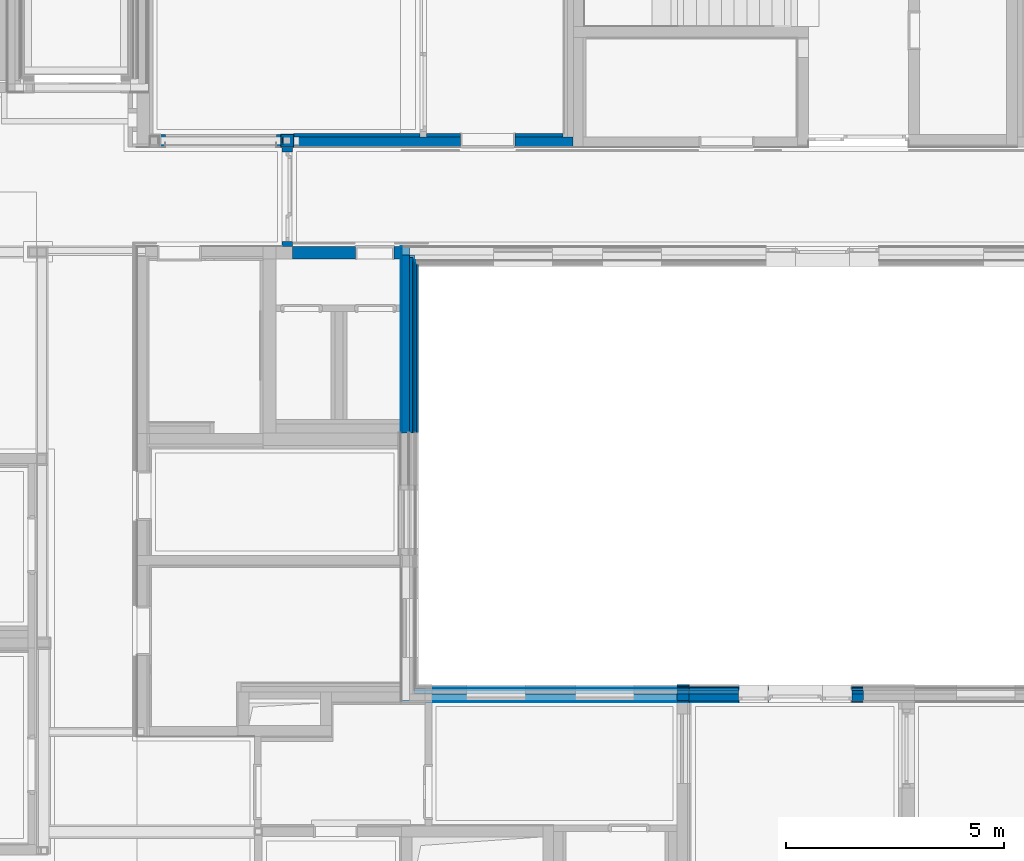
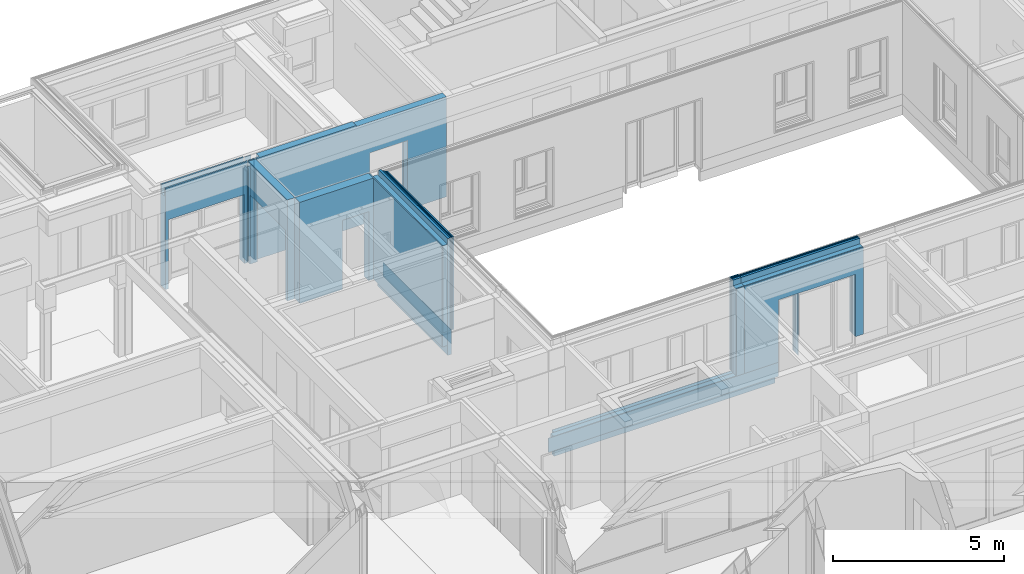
# One storey, part 32 of 207: 41 walls, 23 openings.
"""IFC4 building model written with IfcOpenShell, lengths in metres."""

import ifcopenshell
import ifcopenshell.guid

model = None  # the IFC model being written
_history = None  # IfcOwnerHistory: only IFC2X3 demands one
_inside = {}  # id of a spatial element -> (the spatial element, [elements in it])
_under = {}  # id of a project, library or spatial element -> (it, [spatial elements below it])
_declared = {}  # id of a project -> (the project, [libraries it declares])
_typed = {}  # id of a type object -> (the type object, [elements of that type])
_made_of = {}  # id of a material, layer set ... -> (it, [elements and type objects made of it])


def new_model(schema):
    """Start an empty IFC model of exactly this schema.

    Asked for "IFC4X3", IfcOpenShell would pick the latest addendum, in which some entities
    have other attributes; the version numbers below select the first issue.
    IFC2X3 requires an IfcOwnerHistory on every rooted entity: one is made here for all.
    """
    global model, _history
    if schema == "IFC4X3":
        model = ifcopenshell.file(schema_version=(4, 3, 0, 0))
    else:
        model = ifcopenshell.file(schema=schema)
    _inside.clear()
    _under.clear()
    _declared.clear()
    _typed.clear()
    _made_of.clear()
    _history = None
    if model.schema == "IFC2X3":
        org = make("IfcOrganization", Name="unknown")
        user = make(
            "IfcPersonAndOrganization",
            ThePerson=make("IfcPerson", FamilyName="unknown"),
            TheOrganization=org,
        )
        app = make(
            "IfcApplication",
            ApplicationDeveloper=org,
            Version="unknown",
            ApplicationFullName="unknown",
            ApplicationIdentifier="unknown",
        )
        _history = make(
            "IfcOwnerHistory",
            OwningUser=user,
            OwningApplication=app,
            ChangeAction="ADDED",
            CreationDate=0,
        )
    return model


def make(cls, **values):
    """One entity of the class cls with the attributes given. An attribute that is None is left unset."""
    return model.create_entity(
        cls, **{name: value for name, value in values.items() if value is not None}
    )


def entity(cls, *values):
    """Any entity or typed value of the class cls, its attributes in the order of the schema. None: left unset."""
    e = model.create_entity(cls)
    for i, value in enumerate(values):
        if value is not None:
            e[i] = value
    return e


def rooted(cls, **values):
    """An entity with a GlobalId (a new one), such as an element, a storey or a relation."""
    return make(cls, GlobalId=ifcopenshell.guid.new(), OwnerHistory=_history, **values)


def si_unit(unit_type, name, prefix=None):
    """IfcSIUnit, for example si_unit("LENGTHUNIT", "METRE", prefix="MILLI")."""
    return make("IfcSIUnit", UnitType=unit_type, Prefix=prefix, Name=name)


def converted_unit(unit_type, name, factor, base, dimensions=None, offset=None):
    """IfcConversionBasedUnit, such as the inch: factor (a typed value) times the base unit."""
    return make(
        "IfcConversionBasedUnit"
        if offset is None
        else "IfcConversionBasedUnitWithOffset",
        ConversionOffset=offset,
        Dimensions=None
        if dimensions is None
        else entity("IfcDimensionalExponents", *dimensions),
        UnitType=unit_type,
        Name=name,
        ConversionFactor=make(
            "IfcMeasureWithUnit", ValueComponent=factor, UnitComponent=base
        ),
    )


def derived_unit(unit_type, elements):
    """IfcDerivedUnit: a product of units, each with its exponent."""
    return make(
        "IfcDerivedUnit",
        Elements=[
            make("IfcDerivedUnitElement", Unit=unit, Exponent=power)
            for unit, power in elements
        ],
        UnitType=unit_type,
    )


def assignment(units):
    """IfcUnitAssignment: the units of a project."""
    return None if units is None else make("IfcUnitAssignment", Units=units)


def point(xyz):
    """IfcCartesianPoint."""
    return None if xyz is None else make("IfcCartesianPoint", Coordinates=xyz)


def direction(xyz):
    """IfcDirection."""
    return None if xyz is None else make("IfcDirection", DirectionRatios=xyz)


def frame(location, z_axis=None, x_axis=None):
    """IfcAxis2Placement3D, a coordinate frame: its origin and axes. An axis left out is left unset."""
    return make(
        "IfcAxis2Placement3D",
        Location=point(location),
        Axis=direction(z_axis),
        RefDirection=direction(x_axis),
    )


def frame_2d(location, x_axis=None):
    """IfcAxis2Placement2D, a coordinate frame in the plane: its origin and x axis."""
    return make(
        "IfcAxis2Placement2D", Location=point(location), RefDirection=direction(x_axis)
    )


def origin():
    """The frame at (0, 0, 0) with its axes left unset."""
    return frame((0.0, 0.0, 0.0))


def origin_with_axes():
    """The frame at (0, 0, 0) with the z axis (0, 0, 1) and the x axis (1, 0, 0) written out."""
    return frame((0.0, 0.0, 0.0), z_axis=(0.0, 0.0, 1.0), x_axis=(1.0, 0.0, 0.0))


def place(relative_to, where):
    """IfcLocalPlacement: puts the frame where relative to a parent placement (None: the world)."""
    return make(
        "IfcLocalPlacement", PlacementRelTo=relative_to, RelativePlacement=where
    )


def context(
    kind, dimensions, precision=None, world=None, true_north=None, identifier=None
):
    """IfcGeometricRepresentationContext, for example the 3D "Model" context."""
    return make(
        "IfcGeometricRepresentationContext",
        ContextIdentifier=identifier,
        ContextType=kind,
        CoordinateSpaceDimension=dimensions,
        Precision=precision,
        WorldCoordinateSystem=world,
        TrueNorth=true_north,
    )


def subcontext(parent, identifier, kind, view, scale=None):
    """IfcGeometricRepresentationSubContext, for example "Body" below "Model"."""
    return make(
        "IfcGeometricRepresentationSubContext",
        ContextIdentifier=identifier,
        ContextType=kind,
        ParentContext=parent,
        TargetScale=scale,
        TargetView=view,
    )


def project(units=None, contexts=None):
    """IfcProject with its units and contexts."""
    return rooted(
        "IfcProject",
        Name="project",
        RepresentationContexts=contexts,
        UnitsInContext=assignment(units),
    )


def spatial(cls, under=None, at=None, **own):
    """A site, building, storey or space (cls), placed at a placement, below another one or the project."""
    s = rooted(cls, ObjectPlacement=at, **own)
    if under is not None:
        _under.setdefault(under.id(), (under, []))[1].append(s)
    return s


def polyline(points):
    """IfcPolyline through the points."""
    return make("IfcPolyline", Points=[point(p) for p in points])


def profile(cls, at=None, kind="AREA", **sizes):
    """A parametric profile (cls). Its sizes go by their IFC names, for example OverallWidth=200.0."""
    return make(cls, ProfileType=kind, Position=at, **sizes)


def rectangle(**sizes):
    """IfcRectangleProfileDef."""
    return profile("IfcRectangleProfileDef", **sizes)


def outline(outer, holes=None, kind="AREA"):
    """IfcArbitraryClosedProfileDef: a profile drawn as a closed curve; with holes, ...WithVoids."""
    if holes is None:
        return make("IfcArbitraryClosedProfileDef", ProfileType=kind, OuterCurve=outer)
    return make(
        "IfcArbitraryProfileDefWithVoids",
        ProfileType=kind,
        OuterCurve=outer,
        InnerCurves=holes,
    )


def extrude(swept, where, along, depth):
    """IfcExtrudedAreaSolid: the profile swept, set in the frame where, extruded along a direction by depth."""
    return make(
        "IfcExtrudedAreaSolid",
        SweptArea=swept,
        Position=where,
        ExtrudedDirection=direction(along),
        Depth=depth,
    )


def clip(a, b, op="DIFFERENCE"):
    """IfcBooleanClippingResult: the solid a cut by the half space b."""
    return make(
        "IfcBooleanClippingResult", Operator=op, FirstOperand=a, SecondOperand=b
    )


def bounded_halfspace(plane, agree, where, boundary):
    """IfcPolygonalBoundedHalfSpace: a half space limited to a polygon's prism."""
    return make(
        "IfcPolygonalBoundedHalfSpace",
        BaseSurface=make("IfcPlane", Position=plane),
        AgreementFlag=agree,
        Position=where,
        PolygonalBoundary=boundary,
    )


def shape(context_of_items, identifier, shape_type, items):
    """IfcShapeRepresentation: the items that make up one representation, for example the "Body"."""
    return make(
        "IfcShapeRepresentation",
        ContextOfItems=context_of_items,
        RepresentationIdentifier=identifier,
        RepresentationType=shape_type,
        Items=items,
    )


def material(Name=None, Category=None):
    """IfcMaterial."""
    return make("IfcMaterial", Name=Name, Category=Category)


def made_of(thing, what):
    """Note that an element or type object is made of a material, layer set ...; save() writes the relation."""
    if what is not None:
        _made_of.setdefault(what.id(), (what, []))[1].append(thing)
    return thing


def element(
    cls,
    number,
    at=None,
    inside=None,
    cuts=None,
    type_object=None,
    material=None,
    context=None,
    identifier="Body",
    shape_type=None,
    held_by="IfcProductDefinitionShape",
    body=None,
    shapes=None,
    **own,
):
    """One element of the class cls, such as IfcWall. Its Tag is "e" and its number.

    at: its placement. inside: the storey or other place that contains it. cuts: it is an
    opening in that element (IfcRelVoidsElement). A single representation is given by context,
    identifier, shape_type and body (its items); several are given by shapes. held_by: the class
    of the entity that holds the representations. save() writes the other relations.
    """
    e = rooted(cls, Tag="e%d" % number, ObjectPlacement=at, **own)
    if body is not None:
        shapes = [shape(context, identifier, shape_type, body)]
    if shapes is not None:
        e.Representation = make(held_by, Representations=shapes)
    if inside is not None:
        _inside.setdefault(inside.id(), (inside, []))[1].append(e)
    if cuts is not None:
        rooted(
            "IfcRelVoidsElement", RelatingBuildingElement=cuts, RelatedOpeningElement=e
        )
    if type_object is not None:
        _typed.setdefault(type_object.id(), (type_object, []))[1].append(e)
    return made_of(e, material)


def aggregate(whole, parts):
    """IfcRelAggregates: a whole, such as a stair, and the parts it consists of."""
    return rooted("IfcRelAggregates", RelatingObject=whole, RelatedObjects=parts)


def save(model, path):
    """Write the relations noted so far, then the file.

    IfcRelAggregates (storeys below a building ...), IfcRelContainedInSpatialStructure (elements
    in a storey), IfcRelDefinesByType, IfcRelAssociatesMaterial and IfcRelDeclares: one each for
    every whole, place, type object, material and project.
    """
    for whole, parts in _under.values():
        aggregate(whole, parts)
    for where, things in _inside.values():
        rooted(
            "IfcRelContainedInSpatialStructure",
            RelatedElements=things,
            RelatingStructure=where,
        )
    for kind, things in _typed.values():
        rooted("IfcRelDefinesByType", RelatedObjects=things, RelatingType=kind)
    for what, things in _made_of.values():
        rooted("IfcRelAssociatesMaterial", RelatedObjects=things, RelatingMaterial=what)
    for by, libraries in _declared.values():
        rooted("IfcRelDeclares", RelatingContext=by, RelatedDefinitions=libraries)
    model.write(path)


model = new_model("IFC4")

# Units and contexts
model_context = context("Model", 3, precision=1e-05, world=origin())
body_context = subcontext(model_context, "Body", "Model", "MODEL_VIEW")
ifc_project = project(units=[si_unit("LENGTHUNIT", "METRE"), si_unit("AREAUNIT", "SQUARE_METRE"), si_unit("VOLUMEUNIT", "CUBIC_METRE"), si_unit("MASSUNIT", "GRAM", prefix="KILO"), converted_unit("PLANEANGLEUNIT", "DEGREE", entity("IfcPlaneAngleMeasure", 0.0174532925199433), si_unit("PLANEANGLEUNIT", "RADIAN"), dimensions=[0, 0, 0, 0, 0, 0, 0]), derived_unit("THERMALTRANSMITTANCEUNIT", [(si_unit("POWERUNIT", "WATT"), 1), (si_unit("THERMODYNAMICTEMPERATUREUNIT", "KELVIN"), -1), (si_unit("LENGTHUNIT", "METRE"), -2)]), derived_unit("VOLUMETRICFLOWRATEUNIT", [(si_unit("LENGTHUNIT", "METRE"), 3), (converted_unit("TIMEUNIT", "hour", entity("IfcTimeMeasure", 3600.0), si_unit("TIMEUNIT", "SECOND"), dimensions=[0, 0, 1, 0, 0, 0, 0]), -1), (si_unit("LENGTHUNIT", "METRE"), -1)])], contexts=[model_context])

# Site, building, storey
site_placement = place(None, origin())
site = spatial("IfcSite", under=ifc_project, at=site_placement, Name="Psychiatrie Neubau Wunstorf", CompositionType="ELEMENT")
building_placement = place(site_placement, origin())
building = spatial("IfcBuilding", under=site, at=building_placement, Name="Neubau H2 Stationsgebäude", CompositionType="ELEMENT")
storey_placement = place(building_placement, frame((0.0, 0.0, -0.2)))
storey = spatial("IfcBuildingStorey", under=building, at=storey_placement, Name="H2 Ebene 0", CompositionType="ELEMENT", Elevation=-0.2)

# Walls
ifc_material_1 = material(Name="WA-LB")
wall_1_placement = place(storey_placement, frame((43.9390000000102, 20.5499980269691, 0.5), z_axis=(0.0, 0.0, 1.0), x_axis=(0.0, -1.0, 0.0)))
element("IfcWall", 1, at=wall_1_placement, inside=storey, material=ifc_material_1, context=body_context, shape_type="SweptSolid", body=[
    extrude(rectangle(XDim=4.24949197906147, YDim=0.036, at=frame_2d((2.12474598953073, 0.018), x_axis=(1.0, 0.0))), origin_with_axes(), (0.0, 0.0, 1.0), 3.1),
])
ifc_material_2 = material(Name="WA-HD")
wall_2_placement = place(storey_placement, frame((43.9750000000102, 20.3899980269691, 0.5), z_axis=(0.0, 0.0, 1.0), x_axis=(0.0, -1.0, 0.0)))
element("IfcWall", 2, at=wall_2_placement, inside=storey, material=ifc_material_2, context=body_context, shape_type="SweptSolid", body=[
    extrude(rectangle(XDim=4.08949197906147, YDim=0.16, at=frame_2d((2.04474598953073, 0.08), x_axis=(1.0, 0.0))), origin_with_axes(), (0.0, 0.0, 1.0), 3.1),
])
ifc_material_3 = material(Name="WA-DL")
wall_3_placement = place(storey_placement, frame((44.1350000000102, 20.3299980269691, 0.5), z_axis=(0.0, 0.0, 1.0), x_axis=(0.0, -1.0, 0.0)))
element("IfcWall", 3, at=wall_3_placement, inside=storey, material=ifc_material_3, context=body_context, shape_type="SweptSolid", body=[
    extrude(rectangle(XDim=4.02949197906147, YDim=0.08, at=frame_2d((2.01474598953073, 0.04), x_axis=(1.0, 0.0))), origin_with_axes(), (0.0, 0.0, 1.0), 3.3),
])
ifc_material_4 = material(Name="WA-LB")
wall_4_placement = place(storey_placement, frame((44.2150000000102, 20.2499980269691, 0.5), z_axis=(0.0, 0.0, 1.0), x_axis=(0.0, -1.0, 0.0)))
element("IfcWall", 4, at=wall_4_placement, inside=storey, material=ifc_material_4, context=body_context, shape_type="SweptSolid", body=[
    extrude(rectangle(XDim=3.94949197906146, YDim=0.036, at=frame_2d((1.97474598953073, 0.018), x_axis=(1.0, 0.0))), origin_with_axes(), (0.0, 0.0, 1.0), 3.3),
])
ifc_material_5 = material(Name="WA-KL")
wall_5_placement = place(storey_placement, frame((44.2510000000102, 20.2139980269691, 0.5), z_axis=(0.0, 0.0, 1.0), x_axis=(0.0, -1.0, 0.0)))
element("IfcWall", 5, at=wall_5_placement, inside=storey, material=ifc_material_5, context=body_context, shape_type="SweptSolid", body=[
    extrude(rectangle(XDim=3.91349197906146, YDim=0.024, at=frame_2d((1.95674598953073, 0.012), x_axis=(1.0, 0.0))), origin_with_axes(), (0.0, 0.0, 1.0), 3.3),
])
ifc_material_6 = material(Name="WA-TL")
wall_6_placement = place(storey_placement, frame((44.2750000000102, 20.1899980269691, 0.5), z_axis=(0.0, 0.0, 1.0), x_axis=(0.0, -1.0, 0.0)))
element("IfcWall", 6, at=wall_6_placement, inside=storey, material=ifc_material_6, context=body_context, shape_type="SweptSolid", body=[
    extrude(rectangle(XDim=3.88949197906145, YDim=0.024, at=frame_2d((1.94474598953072, 0.012), x_axis=(1.0, 0.0))), origin_with_axes(), (0.0, 0.0, 1.0), 3.3),
])
ifc_material_7 = material(Name="WA-HS")
wall_7_placement = place(storey_placement, frame((44.2990000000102, 20.1659980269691, 0.5), z_axis=(0.0, 0.0, 1.0), x_axis=(0.0, -1.0, 0.0)))
element("IfcWall", 7, at=wall_7_placement, inside=storey, material=ifc_material_7, context=body_context, shape_type="SweptSolid", body=[
    extrude(rectangle(XDim=3.86549197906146, YDim=0.042, at=frame_2d((1.93274598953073, 0.021), x_axis=(1.0, 0.0))), origin_with_axes(), (0.0, 0.0, 1.0), 3.3),
])
ifc_material_8 = material(Name="WA-LB")
wall_8_placement = place(storey_placement, frame((50.2860000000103, 10.1139996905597, 0.5)))
element("IfcWall", 8, at=wall_8_placement, inside=storey, material=ifc_material_8, context=body_context, shape_type="SweptSolid", body=[
    extrude(rectangle(XDim=0.272, YDim=0.036, at=frame_2d((0.136, 0.018), x_axis=(1.0, 0.0))), origin_with_axes(), (0.0, 0.0, 1.0), 3.1),
])
ifc_material_9 = material(Name="WA-HD")
wall_9_placement = place(storey_placement, frame((50.2860000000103, 10.1499996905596, 0.5)))
element("IfcWall", 9, at=wall_9_placement, inside=storey, material=ifc_material_9, context=body_context, shape_type="SweptSolid", body=[
    extrude(rectangle(XDim=0.272, YDim=0.16, at=frame_2d((0.136, 0.08), x_axis=(1.0, 0.0))), origin_with_axes(), (0.0, 0.0, 1.0), 3.1),
])
ifc_material_10 = material(Name="WA-DL")
wall_10_placement = place(storey_placement, frame((50.2860000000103, 10.3099996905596, 0.5)))
element("IfcWall", 10, at=wall_10_placement, inside=storey, material=ifc_material_10, context=body_context, shape_type="SweptSolid", body=[
    extrude(rectangle(XDim=0.272, YDim=0.08, at=frame_2d((0.136, 0.04), x_axis=(1.0, 0.0))), origin_with_axes(), (0.0, 0.0, 1.0), 3.3),
])
ifc_material_11 = material(Name="WA-TP")
wall_11_placement = place(storey_placement, frame((50.2860000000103, 10.3899996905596, 0.5)))
element("IfcWall", 11, at=wall_11_placement, inside=storey, material=ifc_material_11, context=body_context, shape_type="SweptSolid", body=[
    extrude(rectangle(XDim=0.272, YDim=0.036, at=frame_2d((0.136, 0.018), x_axis=(1.0, 0.0))), origin_with_axes(), (0.0, 0.0, 1.0), 3.3),
])
ifc_material_12 = material(Name="WA-KL")
wall_12_placement = place(storey_placement, frame((50.2860000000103, 10.4259996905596, 0.5)))
element("IfcWall", 12, at=wall_12_placement, inside=storey, material=ifc_material_12, context=body_context, shape_type="SweptSolid", body=[
    extrude(rectangle(XDim=0.272, YDim=0.024, at=frame_2d((0.136, 0.012), x_axis=(1.0, 0.0))), origin_with_axes(), (0.0, 0.0, 1.0), 3.3),
])
ifc_material_13 = material(Name="WA-TL")
wall_13_placement = place(storey_placement, frame((50.2860000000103, 10.4499996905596, 0.5)))
element("IfcWall", 13, at=wall_13_placement, inside=storey, material=ifc_material_13, context=body_context, shape_type="SweptSolid", body=[
    extrude(rectangle(XDim=0.272, YDim=0.024, at=frame_2d((0.136, 0.012), x_axis=(1.0, 0.0))), origin_with_axes(), (0.0, 0.0, 1.0), 3.3),
])
ifc_material_14 = material(Name="WA-HS")
wall_14_placement = place(storey_placement, frame((50.2860000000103, 10.4739996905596, 0.5)))
element("IfcWall", 14, at=wall_14_placement, inside=storey, material=ifc_material_14, context=body_context, shape_type="SweptSolid", body=[
    extrude(rectangle(XDim=0.272, YDim=0.042, at=frame_2d((0.136, 0.021), x_axis=(1.0, 0.0))), origin_with_axes(), (0.0, 0.0, 1.0), 3.3),
])

# Wall, openings
ifc_material_15 = material(Name="WA-LB")
wall_15_placement = place(storey_placement, frame((50.5580000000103, 10.1139996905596, 0.5)))
wall_15 = element("IfcWall", 15, at=wall_15_placement, inside=storey, material=ifc_material_15, context=body_context, shape_type="SweptSolid", body=[
    extrude(rectangle(XDim=4.00450000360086, YDim=0.036, at=frame_2d((2.00225000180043, 0.018), x_axis=(1.0, 0.0))), origin_with_axes(), (0.0, 0.0, 1.0), 3.1),
])
opening_1_placement = place(wall_15_placement, frame((1.81567714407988, 0.036, -0.3), z_axis=(0.0, -1.0, 0.0), x_axis=(0.0, 0.0, 1.0)))
element("IfcOpeningElement", 16, at=opening_1_placement, cuts=wall_15, Name="Fensteröffnung", ObjectType="Opening", context=body_context, shape_type="SweptSolid", body=[
    extrude(outline(polyline([(2.52, 0.675), (2.52, 0.0), (0.0, 0.0), (0.0, 0.675), (2.52, 0.675)])), origin_with_axes(), (0.0, 0.0, 1.0), 0.036),
])
opening_2_placement = place(wall_15_placement, frame((3.06570000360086, 0.036, -0.5), z_axis=(0.0, -1.0, 0.0), x_axis=(0.0, 0.0, 1.0)))
element("IfcOpeningElement", 17, at=opening_2_placement, cuts=wall_15, Name="Türöffnung", ObjectType="Opening", context=body_context, shape_type="SweptSolid", body=[
    extrude(outline(polyline([(2.72, 1.25), (2.72, 0.0), (0.0, 0.0), (0.0, 1.25), (2.72, 1.25)])), origin_with_axes(), (0.0, 0.0, 1.0), 0.036),
])
opening_3_placement = place(wall_15_placement, frame((3.74070000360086, 0.036, -0.3), z_axis=(0.0, -1.0, 0.0), x_axis=(0.0, 0.0, 1.0)))
element("IfcOpeningElement", 18, at=opening_3_placement, cuts=wall_15, Name="Fensteröffnung", ObjectType="Opening", context=body_context, shape_type="SweptSolid", body=[
    extrude(outline(polyline([(2.52, 0.675), (2.52, 0.0), (0.0, 0.0), (0.0, 0.675), (2.52, 0.675)])), origin_with_axes(), (0.0, 0.0, 1.0), 0.036),
])

ifc_material_16 = material(Name="WA-HD")
wall_16_placement = place(storey_placement, frame((50.5580000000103, 10.1499996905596, 0.5)))
wall_16 = element("IfcWall", 19, at=wall_16_placement, inside=storey, material=ifc_material_16, context=body_context, shape_type="SweptSolid", body=[
    extrude(rectangle(XDim=4.00450000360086, YDim=0.16, at=frame_2d((2.00225000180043, 0.08), x_axis=(1.0, 0.0))), origin_with_axes(), (0.0, 0.0, 1.0), 3.1),
])
opening_4_placement = place(wall_16_placement, frame((1.81567714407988, 0.16, -0.3), z_axis=(0.0, -1.0, 0.0), x_axis=(0.0, 0.0, 1.0)))
element("IfcOpeningElement", 20, at=opening_4_placement, cuts=wall_16, Name="Fensteröffnung", ObjectType="Opening", context=body_context, shape_type="SweptSolid", body=[
    extrude(outline(polyline([(2.52, 0.675), (2.52, 0.0), (0.0, 0.0), (0.0, 0.675), (2.52, 0.675)])), origin_with_axes(), (0.0, 0.0, 1.0), 0.16),
])
opening_5_placement = place(wall_16_placement, frame((3.06570000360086, 0.16, -0.5), z_axis=(0.0, -1.0, 0.0), x_axis=(0.0, 0.0, 1.0)))
element("IfcOpeningElement", 21, at=opening_5_placement, cuts=wall_16, Name="Türöffnung", ObjectType="Opening", context=body_context, shape_type="SweptSolid", body=[
    extrude(outline(polyline([(2.72, 1.25), (2.72, 0.0), (0.0, 0.0), (0.0, 1.25), (2.72, 1.25)])), origin_with_axes(), (0.0, 0.0, 1.0), 0.16),
])
opening_6_placement = place(wall_16_placement, frame((3.74070000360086, 0.16, -0.3), z_axis=(0.0, -1.0, 0.0), x_axis=(0.0, 0.0, 1.0)))
element("IfcOpeningElement", 22, at=opening_6_placement, cuts=wall_16, Name="Fensteröffnung", ObjectType="Opening", context=body_context, shape_type="SweptSolid", body=[
    extrude(outline(polyline([(2.52, 0.675), (2.52, 0.0), (0.0, 0.0), (0.0, 0.675), (2.52, 0.675)])), origin_with_axes(), (0.0, 0.0, 1.0), 0.16),
])

ifc_material_17 = material(Name="WA-DL")
wall_17_placement = place(storey_placement, frame((50.5580000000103, 10.3099996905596, 0.5)))
wall_17 = element("IfcWall", 23, at=wall_17_placement, inside=storey, material=ifc_material_17, context=body_context, shape_type="SweptSolid", body=[
    extrude(rectangle(XDim=4.00450000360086, YDim=0.08, at=frame_2d((2.00225000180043, 0.04), x_axis=(1.0, 0.0))), origin_with_axes(), (0.0, 0.0, 1.0), 3.3),
])
opening_7_placement = place(wall_17_placement, frame((1.81567714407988, 0.08, -0.3), z_axis=(0.0, -1.0, 0.0), x_axis=(0.0, 0.0, 1.0)))
element("IfcOpeningElement", 24, at=opening_7_placement, cuts=wall_17, Name="Fensteröffnung", ObjectType="Opening", context=body_context, shape_type="SweptSolid", body=[
    extrude(outline(polyline([(2.52, 0.675), (2.52, 0.0), (0.0, 0.0), (0.0, 0.675), (2.52, 0.675)])), origin_with_axes(), (0.0, 0.0, 1.0), 0.08),
])
opening_8_placement = place(wall_17_placement, frame((3.06570000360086, 0.08, -0.5), z_axis=(0.0, -1.0, 0.0), x_axis=(0.0, 0.0, 1.0)))
element("IfcOpeningElement", 25, at=opening_8_placement, cuts=wall_17, Name="Türöffnung", ObjectType="Opening", context=body_context, shape_type="SweptSolid", body=[
    extrude(outline(polyline([(2.72, 1.25), (2.72, 0.0), (0.0, 0.0), (0.0, 1.25), (2.72, 1.25)])), origin_with_axes(), (0.0, 0.0, 1.0), 0.08),
])
opening_9_placement = place(wall_17_placement, frame((3.74070000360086, 0.08, -0.3), z_axis=(0.0, -1.0, 0.0), x_axis=(0.0, 0.0, 1.0)))
element("IfcOpeningElement", 26, at=opening_9_placement, cuts=wall_17, Name="Fensteröffnung", ObjectType="Opening", context=body_context, shape_type="SweptSolid", body=[
    extrude(outline(polyline([(2.52, 0.675), (2.52, 0.0), (0.0, 0.0), (0.0, 0.675), (2.52, 0.675)])), origin_with_axes(), (0.0, 0.0, 1.0), 0.08),
])

ifc_material_18 = material(Name="WA-LB")
wall_18_placement = place(storey_placement, frame((50.5580000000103, 10.3899996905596, 0.5)))
wall_18 = element("IfcWall", 27, at=wall_18_placement, inside=storey, material=ifc_material_18, context=body_context, shape_type="SweptSolid", body=[
    extrude(rectangle(XDim=4.00450000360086, YDim=0.036, at=frame_2d((2.00225000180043, 0.018), x_axis=(1.0, 0.0))), origin_with_axes(), (0.0, 0.0, 1.0), 3.3),
])
opening_10_placement = place(wall_18_placement, frame((1.81567714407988, 0.036, -0.3), z_axis=(0.0, -1.0, 0.0), x_axis=(0.0, 0.0, 1.0)))
element("IfcOpeningElement", 28, at=opening_10_placement, cuts=wall_18, Name="Fensteröffnung", ObjectType="Opening", context=body_context, shape_type="SweptSolid", body=[
    extrude(outline(polyline([(2.52, 0.675), (2.52, 0.0), (0.0, 0.0), (0.0, 0.675), (2.52, 0.675)])), origin_with_axes(), (0.0, 0.0, 1.0), 0.036),
])
opening_11_placement = place(wall_18_placement, frame((3.06570000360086, 0.036, -0.5), z_axis=(0.0, -1.0, 0.0), x_axis=(0.0, 0.0, 1.0)))
element("IfcOpeningElement", 29, at=opening_11_placement, cuts=wall_18, Name="Türöffnung", ObjectType="Opening", context=body_context, shape_type="SweptSolid", body=[
    extrude(outline(polyline([(2.72, 1.25), (2.72, 0.0), (0.0, 0.0), (0.0, 1.25), (2.72, 1.25)])), origin_with_axes(), (0.0, 0.0, 1.0), 0.036),
])
opening_12_placement = place(wall_18_placement, frame((3.74070000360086, 0.036, -0.3), z_axis=(0.0, -1.0, 0.0), x_axis=(0.0, 0.0, 1.0)))
element("IfcOpeningElement", 30, at=opening_12_placement, cuts=wall_18, Name="Fensteröffnung", ObjectType="Opening", context=body_context, shape_type="SweptSolid", body=[
    extrude(outline(polyline([(2.52, 0.675), (2.52, 0.0), (0.0, 0.0), (0.0, 0.675), (2.52, 0.675)])), origin_with_axes(), (0.0, 0.0, 1.0), 0.036),
])

ifc_material_19 = material(Name="WA-KL")
wall_19_placement = place(storey_placement, frame((50.5580000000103, 10.4259996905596, 0.5)))
wall_19 = element("IfcWall", 31, at=wall_19_placement, inside=storey, material=ifc_material_19, context=body_context, shape_type="SweptSolid", body=[
    extrude(rectangle(XDim=4.00450000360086, YDim=0.024, at=frame_2d((2.00225000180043, 0.012), x_axis=(1.0, 0.0))), origin_with_axes(), (0.0, 0.0, 1.0), 3.3),
])
opening_13_placement = place(wall_19_placement, frame((1.81567714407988, 0.024, -0.3), z_axis=(0.0, -1.0, 0.0), x_axis=(0.0, 0.0, 1.0)))
element("IfcOpeningElement", 32, at=opening_13_placement, cuts=wall_19, Name="Fensteröffnung", ObjectType="Opening", context=body_context, shape_type="SweptSolid", body=[
    extrude(outline(polyline([(2.52, 0.675), (2.52, 0.0), (0.0, 0.0), (0.0, 0.675), (2.52, 0.675)])), origin_with_axes(), (0.0, 0.0, 1.0), 0.024),
])
opening_14_placement = place(wall_19_placement, frame((3.06570000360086, 0.024, -0.5), z_axis=(0.0, -1.0, 0.0), x_axis=(0.0, 0.0, 1.0)))
element("IfcOpeningElement", 33, at=opening_14_placement, cuts=wall_19, Name="Türöffnung", ObjectType="Opening", context=body_context, shape_type="SweptSolid", body=[
    extrude(outline(polyline([(2.72, 1.25), (2.72, 0.0), (0.0, 0.0), (0.0, 1.25), (2.72, 1.25)])), origin_with_axes(), (0.0, 0.0, 1.0), 0.024),
])
opening_15_placement = place(wall_19_placement, frame((3.74070000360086, 0.024, -0.3), z_axis=(0.0, -1.0, 0.0), x_axis=(0.0, 0.0, 1.0)))
element("IfcOpeningElement", 34, at=opening_15_placement, cuts=wall_19, Name="Fensteröffnung", ObjectType="Opening", context=body_context, shape_type="SweptSolid", body=[
    extrude(outline(polyline([(2.52, 0.675), (2.52, 0.0), (0.0, 0.0), (0.0, 0.675), (2.52, 0.675)])), origin_with_axes(), (0.0, 0.0, 1.0), 0.024),
])

ifc_material_20 = material(Name="WA-TL")
wall_20_placement = place(storey_placement, frame((50.5580000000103, 10.4499996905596, 0.5)))
wall_20 = element("IfcWall", 35, at=wall_20_placement, inside=storey, material=ifc_material_20, context=body_context, shape_type="SweptSolid", body=[
    extrude(rectangle(XDim=4.00450000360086, YDim=0.024, at=frame_2d((2.00225000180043, 0.012), x_axis=(1.0, 0.0))), origin_with_axes(), (0.0, 0.0, 1.0), 3.3),
])
opening_16_placement = place(wall_20_placement, frame((1.81567714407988, 0.024, -0.3), z_axis=(0.0, -1.0, 0.0), x_axis=(0.0, 0.0, 1.0)))
element("IfcOpeningElement", 36, at=opening_16_placement, cuts=wall_20, Name="Fensteröffnung", ObjectType="Opening", context=body_context, shape_type="SweptSolid", body=[
    extrude(outline(polyline([(2.52, 0.675), (2.52, 0.0), (0.0, 0.0), (0.0, 0.675), (2.52, 0.675)])), origin_with_axes(), (0.0, 0.0, 1.0), 0.024),
])
opening_17_placement = place(wall_20_placement, frame((3.06570000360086, 0.024, -0.5), z_axis=(0.0, -1.0, 0.0), x_axis=(0.0, 0.0, 1.0)))
element("IfcOpeningElement", 37, at=opening_17_placement, cuts=wall_20, Name="Türöffnung", ObjectType="Opening", context=body_context, shape_type="SweptSolid", body=[
    extrude(outline(polyline([(2.72, 1.25), (2.72, 0.0), (0.0, 0.0), (0.0, 1.25), (2.72, 1.25)])), origin_with_axes(), (0.0, 0.0, 1.0), 0.024),
])
opening_18_placement = place(wall_20_placement, frame((3.74070000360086, 0.024, -0.3), z_axis=(0.0, -1.0, 0.0), x_axis=(0.0, 0.0, 1.0)))
element("IfcOpeningElement", 38, at=opening_18_placement, cuts=wall_20, Name="Fensteröffnung", ObjectType="Opening", context=body_context, shape_type="SweptSolid", body=[
    extrude(outline(polyline([(2.52, 0.675), (2.52, 0.0), (0.0, 0.0), (0.0, 0.675), (2.52, 0.675)])), origin_with_axes(), (0.0, 0.0, 1.0), 0.024),
])

# Walls
ifc_material_21 = material(Name="WA-LB")
wall_21_placement = place(storey_placement, frame((43.9390000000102, 20.5859980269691, 0.0), z_axis=(0.0, 0.0, 1.0), x_axis=(0.0, -1.0, 0.0)))
element("IfcWall", 39, at=wall_21_placement, inside=storey, material=ifc_material_21, context=body_context, shape_type="SweptSolid", body=[
    extrude(rectangle(XDim=4.2854919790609, YDim=0.021, at=frame_2d((2.14274598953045, 0.0105), x_axis=(1.0, 0.0))), origin_with_axes(), (0.0, 0.0, 1.0), 0.5),
])
ifc_material_22 = material(Name="WA-STB")
wall_22_placement = place(storey_placement, frame((43.9600000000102, 20.5649980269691, 0.0), z_axis=(0.0, 0.0, 1.0), x_axis=(0.0, -1.0, 0.0)))
element("IfcWall", 40, at=wall_22_placement, inside=storey, material=ifc_material_22, context=body_context, shape_type="SweptSolid", body=[
    extrude(rectangle(XDim=4.2644919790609, YDim=0.175, at=frame_2d((2.13224598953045, 0.0875), x_axis=(1.0, 0.0))), origin_with_axes(), (0.0, 0.0, 1.0), 0.5),
])
ifc_material_23 = material(Name="WA-DE")
wall_23_placement = place(storey_placement, frame((44.1350000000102, 20.3899980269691, -0.36), z_axis=(0.0, 0.0, 1.0), x_axis=(0.0, -1.0, 0.0)))
element("IfcWall", 41, at=wall_23_placement, inside=storey, material=ifc_material_23, context=body_context, shape_type="SweptSolid", body=[
    extrude(rectangle(XDim=4.0894919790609, YDim=0.12, at=frame_2d((2.04474598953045, 0.06), x_axis=(1.0, 0.0))), origin_with_axes(), (0.0, 0.0, 1.0), 0.86),
])
ifc_material_24 = material(Name="WA-LB")
wall_24_placement = place(storey_placement, frame((44.2550000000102, 20.2699980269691, 0.0), z_axis=(0.0, 0.0, 1.0), x_axis=(0.0, -1.0, 0.0)))
element("IfcWall", 42, at=wall_24_placement, inside=storey, material=ifc_material_24, context=body_context, shape_type="SweptSolid", body=[
    extrude(rectangle(XDim=3.9694919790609, YDim=0.015, at=frame_2d((1.98474598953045, 0.0075), x_axis=(1.0, 0.0))), origin_with_axes(), (0.0, 0.0, 1.0), 0.5),
])
ifc_material_25 = material(Name="WA-LB")
wall_25_placement = place(storey_placement, frame((43.9600000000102, 10.1139996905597, 0.0), z_axis=(0.0, 0.0, 1.0), x_axis=(1.0, -2.35051723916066e-16, 0.0)))
element("IfcWall", 43, at=wall_25_placement, inside=storey, material=ifc_material_25, context=body_context, shape_type="SweptSolid", body=[
    extrude(rectangle(XDim=7.73867714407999, YDim=0.021, at=frame_2d((3.86933857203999, 0.0105), x_axis=(1.0, 0.0))), origin_with_axes(), (0.0, 0.0, 1.0), 0.5),
])
ifc_material_26 = material(Name="WA-STB")
wall_26_placement = place(storey_placement, frame((44.1350000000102, 10.1349996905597, 0.0), z_axis=(0.0, 0.0, 1.0), x_axis=(1.0, -2.40490090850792e-16, 0.0)))
element("IfcWall", 44, at=wall_26_placement, inside=storey, material=ifc_material_26, context=body_context, shape_type="SweptSolid", body=[
    extrude(rectangle(XDim=7.56367714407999, YDim=0.174999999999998, at=frame_2d((3.78183857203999, 0.0874999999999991), x_axis=(1.0, 0.0))), origin_with_axes(), (0.0, 0.0, 1.0), 0.5),
])
ifc_material_27 = material(Name="WA-DE")
wall_27_placement = place(storey_placement, frame((44.2550000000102, 10.3099996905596, -0.36), z_axis=(0.0, 0.0, 1.0), x_axis=(1.0, -2.44367047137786e-16, 0.0)))
element("IfcWall", 45, at=wall_27_placement, inside=storey, material=ifc_material_27, context=body_context, shape_type="SweptSolid", body=[
    extrude(rectangle(XDim=7.44367714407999, YDim=0.12, at=frame_2d((3.72183857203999, 0.06), x_axis=(1.0, 0.0))), origin_with_axes(), (0.0, 0.0, 1.0), 0.86),
])
ifc_material_28 = material(Name="WA-LB")
wall_28_placement = place(storey_placement, frame((44.2700000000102, 10.4299996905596, 0.0), z_axis=(0.0, 0.0, 1.0), x_axis=(1.0, -2.44860473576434e-16, 0.0)))
element("IfcWall", 46, at=wall_28_placement, inside=storey, material=ifc_material_28, context=body_context, shape_type="SweptSolid", body=[
    extrude(rectangle(XDim=7.42867714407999, YDim=0.015, at=frame_2d((3.71433857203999, 0.0075), x_axis=(1.0, 0.0))), origin_with_axes(), (0.0, 0.0, 1.0), 0.5),
])

# Wall, opening
ifc_material_29 = material(Name="WI-HW 60")
wall_29_placement = place(storey_placement, frame((43.9390000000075, 20.5859980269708, 0.0), z_axis=(0.0, 0.0, 1.0), x_axis=(-1.0, 0.0, 0.0)))
wall_29 = element("IfcWall", 47, at=wall_29_placement, inside=storey, material=ifc_material_29, context=body_context, shape_type="SweptSolid", body=[
    extrude(rectangle(XDim=2.48100000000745, YDim=0.29, at=frame_2d((1.24050000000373, 0.145), x_axis=(1.0, 0.0))), origin_with_axes(), (0.0, 0.0, 1.0), 3.6),
])
opening_19_placement = place(wall_29_placement, frame((0.154976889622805, 0.0, 0.0), z_axis=(0.0, 1.0, 0.0), x_axis=(0.0, 0.0, 1.0)))
element("IfcOpeningElement", 48, at=opening_19_placement, cuts=wall_29, Name="Türöffnung", ObjectType="Opening", context=body_context, shape_type="SweptSolid", body=[
    extrude(outline(polyline([(2.46, 0.885), (2.46, 0.0), (0.0, 0.0), (0.0, 0.885), (2.46, 0.885)])), origin_with_axes(), (0.0, 0.0, 1.0), 0.29),
])

ifc_material_30 = material(Name="WI-LW 60")
wall_30_placement = place(storey_placement, frame((41.188, 23.1539990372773, 0.0), z_axis=(0.0, 0.0, 1.0), x_axis=(-0.999999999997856, -2.07069288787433e-06, 0.0)))
wall_30 = element("IfcWall", 49, at=wall_30_placement, inside=storey, material=ifc_material_30, context=body_context, shape_type="Clipping", body=[
    clip(extrude(outline(polyline([(-2.65750060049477, -0.289994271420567), (-0.107500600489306, -0.28999427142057), (-6.00489075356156e-07, -0.289994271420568), (0.0, 0.0), (-2.76499999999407, 5.72546583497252e-06), (-2.765000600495, -0.289994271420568), (-2.65750060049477, -0.289994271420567)])), frame((2.765000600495, 0.289994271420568, 0.0), z_axis=(0.0, 0.0, 1.0), x_axis=(1.0, 0.0, 0.0)), (0.0, 0.0, 1.0), 3.6), bounded_halfspace(frame((1.38250030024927, 0.144997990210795, 3.3), z_axis=(0.0, 0.0, -1.0), x_axis=(2.07069288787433e-06, 0.999999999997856, 0.0)), True, origin_with_axes(), polyline([(2.76500011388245, 0.0549944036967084), (2.76500048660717, 0.234994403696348), (4.8661609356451e-07, 0.235001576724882), (1.13891373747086e-07, 0.0550015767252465), (2.76500011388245, 0.0549944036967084)]))),
])
opening_20_placement = place(wall_30_placement, frame((2.6574999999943, 0.289999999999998, 0.0), z_axis=(3.24297584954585e-11, -1.0, 0.0), x_axis=(0.0, 0.0, 1.0)))
element("IfcOpeningElement", 50, at=opening_20_placement, cuts=wall_30, Name="Türöffnung", ObjectType="Opening", context=body_context, shape_type="SweptSolid", body=[
    extrude(outline(polyline([(2.46, 2.55), (2.46, 0.0), (0.0, 0.0), (0.0, 2.55), (2.46, 2.55)])), origin_with_axes(), (0.0, 0.0, 1.0), 0.29),
])

ifc_material_31 = material(Name="WI-LW 60")
wall_31_placement = place(storey_placement, frame((41.208, 22.8639990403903, 0.0), z_axis=(0.0, 0.0, 1.0), x_axis=(0.0, -1.0, 0.0)))
wall_31 = element("IfcWall", 51, at=wall_31_placement, inside=storey, material=ifc_material_31, context=body_context, shape_type="SweptSolid", body=[
    extrude(rectangle(XDim=2.27800101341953, YDim=0.25, at=frame_2d((1.13900050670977, 0.125), x_axis=(1.0, 0.0))), origin_with_axes(), (0.0, 0.0, 1.0), 3.6),
])
opening_21_placement = place(wall_31_placement, frame((0.107500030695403, 0.0, 0.0), z_axis=(0.0, 1.0, 0.0), x_axis=(0.0, 0.0, 1.0)))
element("IfcOpeningElement", 52, at=opening_21_placement, cuts=wall_31, Name="Türöffnung", ObjectType="Opening", context=body_context, shape_type="SweptSolid", body=[
    extrude(outline(polyline([(2.46, 2.063), (2.46, 0.0), (0.0, 0.0), (0.0, 2.063), (2.46, 2.063)])), origin_with_axes(), (0.0, 0.0, 1.0), 0.25),
])

# Walls
ifc_material_32 = material(Name="WI-GKF")
wall_32_placement = place(storey_placement, frame((41.478, 23.1539990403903, 0.0), z_axis=(0.0, 0.0, 1.0), x_axis=(-1.0, 0.0, 0.0)))
element("IfcWall", 53, at=wall_32_placement, inside=storey, material=ifc_material_32, context=body_context, shape_type="SweptSolid", body=[
    extrude(rectangle(XDim=0.29, YDim=0.036, at=frame_2d((0.145, 0.018), x_axis=(1.0, 0.0))), origin_with_axes(), (0.0, 0.0, 1.0), 3.2),
])
ifc_material_33 = material(Name="WI-HW 60")
wall_33_placement = place(storey_placement, frame((41.442, 23.1179990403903, 0.0), z_axis=(0.0, 0.0, 1.0), x_axis=(-1.0, 0.0, 0.0)))
element("IfcWall", 54, at=wall_33_placement, inside=storey, material=ifc_material_33, context=body_context, shape_type="SweptSolid", body=[
    extrude(rectangle(XDim=0.218, YDim=0.019, at=frame_2d((0.109, 0.0095), x_axis=(1.0, 0.0))), origin_with_axes(), (0.0, 0.0, 1.0), 3.6),
])
ifc_material_34 = material(Name="WI-GKF")
wall_34_placement = place(storey_placement, frame((41.478, 22.8639990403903, 0.0), z_axis=(0.0, 0.0, 1.0), x_axis=(0.0, 1.0, 0.0)))
element("IfcWall", 55, at=wall_34_placement, inside=storey, material=ifc_material_34, context=body_context, shape_type="SweptSolid", body=[
    extrude(rectangle(XDim=0.254, YDim=0.036, at=frame_2d((0.127, 0.018), x_axis=(1.0, 0.0))), origin_with_axes(), (0.0, 0.0, 1.0), 3.2),
])
ifc_material_35 = material(Name="WI-HW 60")
wall_35_placement = place(storey_placement, frame((41.442, 22.8999990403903, 0.0), z_axis=(0.0, 0.0, 1.0), x_axis=(0.0, 1.0, 0.0)))
element("IfcWall", 56, at=wall_35_placement, inside=storey, material=ifc_material_35, context=body_context, shape_type="Clipping", body=[
    clip(extrude(rectangle(XDim=0.199, YDim=0.019, at=frame_2d((0.0995, 0.0095), x_axis=(1.0, 0.0))), origin_with_axes(), (0.0, 0.0, 1.0), 3.6), bounded_halfspace(frame((0.108998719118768, 0.0095, 3.3), z_axis=(0.0, 0.0, -1.0), x_axis=(-5.23530807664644e-07, -0.999999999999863, 0.0)), True, origin_with_axes(), polyline([(0.0189982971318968, 0.019), (0.0189982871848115, 0.0), (0.198999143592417, 0.0), (0.198999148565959, 0.019), (0.0189982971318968, 0.019)]))),
])
ifc_material_36 = material(Name="WI-GKF")
wall_36_placement = place(storey_placement, frame((41.188, 22.8639990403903, 0.0)))
element("IfcWall", 57, at=wall_36_placement, inside=storey, material=ifc_material_36, context=body_context, shape_type="SweptSolid", body=[
    extrude(rectangle(XDim=0.254, YDim=0.036, at=frame_2d((0.127, 0.018), x_axis=(1.0, 0.0))), origin_with_axes(), (0.0, 0.0, 1.0), 3.2),
])
ifc_material_37 = material(Name="WI-HW 60")
wall_37_placement = place(storey_placement, frame((41.224, 22.8999990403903, 0.0)))
element("IfcWall", 58, at=wall_37_placement, inside=storey, material=ifc_material_37, context=body_context, shape_type="SweptSolid", body=[
    extrude(rectangle(XDim=0.199, YDim=0.019, at=frame_2d((0.0995, 0.0095), x_axis=(1.0, 0.0))), origin_with_axes(), (0.0, 0.0, 1.0), 3.6),
])
ifc_material_38 = material(Name="WI-GKF")
wall_38_placement = place(storey_placement, frame((41.188, 23.1179990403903, 0.0), z_axis=(0.0, 0.0, 1.0), x_axis=(0.0, -1.0, 0.0)))
element("IfcWall", 59, at=wall_38_placement, inside=storey, material=ifc_material_38, context=body_context, shape_type="SweptSolid", body=[
    extrude(rectangle(XDim=0.218, YDim=0.036, at=frame_2d((0.109, 0.018), x_axis=(1.0, 0.0))), origin_with_axes(), (0.0, 0.0, 1.0), 3.2),
])
ifc_material_39 = material(Name="WI-HW 60")
wall_39_placement = place(storey_placement, frame((41.224, 23.0989990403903, 0.0), z_axis=(0.0, 0.0, 1.0), x_axis=(0.0, -1.0, 0.0)))
element("IfcWall", 60, at=wall_39_placement, inside=storey, material=ifc_material_39, context=body_context, shape_type="SweptSolid", body=[
    extrude(rectangle(XDim=0.18, YDim=0.019, at=frame_2d((0.09, 0.0095), x_axis=(1.0, 0.0))), origin_with_axes(), (0.0, 0.0, 1.0), 3.3),
])

# Wall, opening
ifc_material_40 = material(Name="WI-LB")
wall_40_placement = place(storey_placement, frame((47.664, 23.1709999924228, 0.0), z_axis=(0.0, 0.0, 1.0), x_axis=(-1.0, 0.0, 0.0)))
wall_40 = element("IfcWall", 61, at=wall_40_placement, inside=storey, material=ifc_material_40, context=body_context, shape_type="Clipping", body=[
    clip(extrude(rectangle(XDim=3.139, YDim=0.075, at=frame_2d((-1.5695, -0.0375), x_axis=(-1.0, 0.0))), frame((3.139, 0.075, 0.0), z_axis=(0.0, 0.0, 1.0), x_axis=(1.0, 0.0, 0.0)), (0.0, 0.0, 1.0), 2.9), bounded_halfspace(frame((1.40825000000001, 0.0375, 2.86), z_axis=(0.0, 0.0, -1.0), x_axis=(0.0, 1.0, 0.0)), True, origin_with_axes(), polyline([(2.81650000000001, 0.0), (2.81650000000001, 0.075), (0.0, 0.075), (0.0, 0.0), (2.81650000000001, 0.0)]))),
    clip(extrude(rectangle(XDim=2.897, YDim=0.075, at=frame_2d((1.4485, 0.0375), x_axis=(1.0, 0.0))), frame((3.289, 0.0, 0.0), z_axis=(0.0, 0.0, 1.0), x_axis=(1.0, 0.0, 0.0)), (0.0, 0.0, 1.0), 2.9), bounded_halfspace(frame((1.40825000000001, 0.0375, 2.86), z_axis=(0.0, 0.0, -1.0), x_axis=(0.0, 1.0, 0.0)), True, origin_with_axes(), polyline([(2.81650000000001, 0.0), (2.81650000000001, 0.075), (0.0, 0.075), (0.0, 0.0), (2.81650000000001, 0.0)]))),
])
opening_22_placement = place(wall_40_placement, frame((2.35899999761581, 0.075, 0.0), z_axis=(0.0, -1.0, 0.0), x_axis=(0.0, 0.0, 1.0)))
element("IfcOpeningElement", 62, at=opening_22_placement, cuts=wall_40, Name="Türöffnung", ObjectType="Opening", context=body_context, shape_type="SweptSolid", body=[
    extrude(outline(polyline([(2.46, 1.26), (2.46, 0.0), (0.0, 0.0), (0.0, 1.26), (2.46, 1.26)])), origin_with_axes(), (0.0, 0.0, 1.0), 0.075),
])

ifc_material_41 = material(Name="WI-HW 60")
wall_41_placement = place(storey_placement, frame((47.889, 23.0959999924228, 0.0), z_axis=(0.0, 0.0, 1.0), x_axis=(-1.0, 0.0, 0.0)))
wall_41 = element("IfcWall", 63, at=wall_41_placement, inside=storey, material=ifc_material_41, context=body_context, shape_type="Clipping", body=[
    clip(clip(extrude(rectangle(XDim=6.411, YDim=0.232, at=frame_2d((3.2055, 0.116), x_axis=(1.0, 0.0))), origin_with_axes(), (0.0, 0.0, 1.0), 3.6), bounded_halfspace(frame((6.34725033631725, 0.0885013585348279, 3.3), z_axis=(0.0, 0.0, -1.0), x_axis=(-5.23530805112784e-07, -0.999999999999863, 0.0)), True, origin_with_axes(), polyline([(6.28350071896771, 0.177002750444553), (6.28350062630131, 0.0), (6.411, 0.0), (6.411, 0.177002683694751), (6.28350071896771, 0.177002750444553)]))), bounded_halfspace(frame((1.52075, 0.116, 3.56), z_axis=(0.0, 0.0, -1.0), x_axis=(-1.0, 0.0, 0.0)), True, origin_with_axes(), polyline([(3.0415, 0.232), (0.0, 0.232), (0.0, 0.0), (3.0415, 0.0), (3.0415, 0.232)]))),
])
opening_23_placement = place(wall_41_placement, frame((2.58399999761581, 0.232, 0.0), z_axis=(0.0, -1.0, 0.0), x_axis=(0.0, 0.0, 1.0)))
element("IfcOpeningElement", 64, at=opening_23_placement, cuts=wall_41, Name="Türöffnung", ObjectType="Opening", context=body_context, shape_type="SweptSolid", body=[
    extrude(outline(polyline([(2.46, 1.26), (2.46, 0.0), (0.0, 0.0), (0.0, 1.26), (2.46, 1.26)])), origin_with_axes(), (0.0, 0.0, 1.0), 0.232),
])

save(model, "model.ifc")
